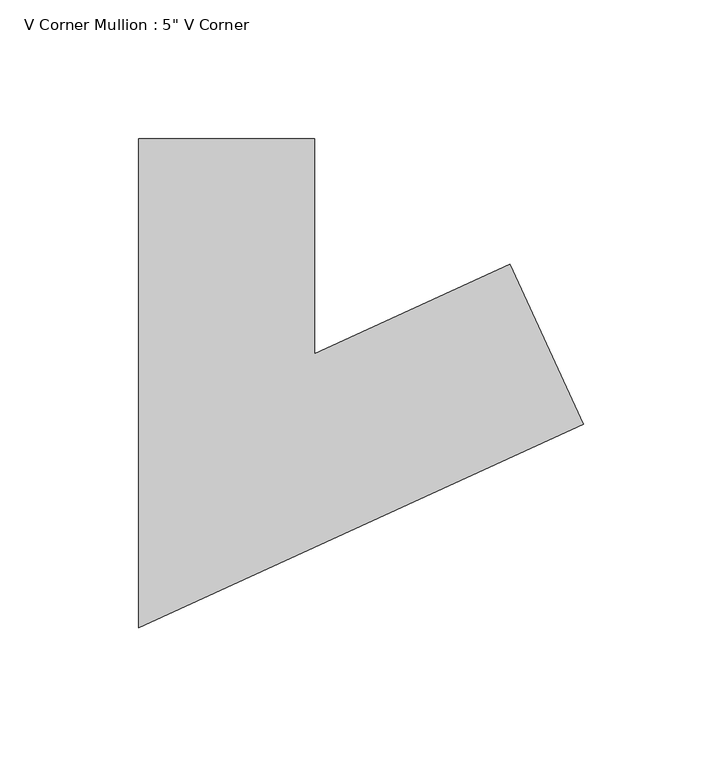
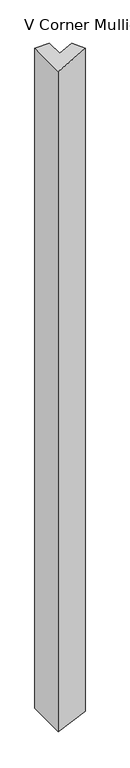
"""IFC4 building model written with IfcOpenShell, lengths in millimetres: member geometry."""

from ifc_helpers import new_model, si_unit, origin, place, context, project, spatial, faceted_brep, source, transform, mapped, element, save


def member_ba924269(model_context):
    return source(origin(), model_context, "Body", "Brep", [
        faceted_brep([(61.49523, 18.2208415, 2.2374393), (87.9205542, -39.5195451, 3.1988969), (87.9205542, -39.5195451, -3051.5893723), (61.49523, 18.2208415, -3050.534459), (-9.0228811, -14.0523047, -0.328288), (-9.0228811, -14.0523047, -3047.7193378), (-9.0228811, 63.5, -0.328288), (-9.0228811, 63.5, -3047.7193378), (-72.5228811, 63.5, -2.6386688), (-72.5228811, 63.5, -3045.1843833), (-72.5228811, -112.9476953, -2.6386688), (-72.5228811, -112.9476953, -3045.1843833)], [[[0, 1, 2, 3]], [[4, 0, 3, 5]], [[6, 4, 5, 7]], [[8, 6, 7, 9]], [[10, 8, 9, 11]], [[1, 10, 11, 2]], [[1, 0, 4, 6, 8, 10]], [[2, 11, 9, 7, 5, 3]]]),
    ])


if __name__ == "__main__":
    model = new_model("IFC4")
    model_context = context("Model", 3, world=origin())
    ifc_project = project(units=[si_unit("LENGTHUNIT", "METRE", prefix="MILLI")], contexts=[model_context])
    site = spatial("IfcSite", under=ifc_project)
    building = spatial("IfcBuilding", under=site)
    placement = place(None, origin())
    member_shape = member_ba924269(model_context)
    element("IfcMember", 1, ObjectType="V Corner Mullion : 5\" V Corner", at=placement, inside=building, context=model_context, shape_type="MappedRepresentation", body=[
        mapped(member_shape, transform((0.0, 0.0, 0.0), x_axis=(1.0, 0.0, 0.0), y_axis=(0.0, 1.0, 0.0), z_axis=(0.0, 0.0, 1.0))),
    ])
    save(model, "model.ifc")
